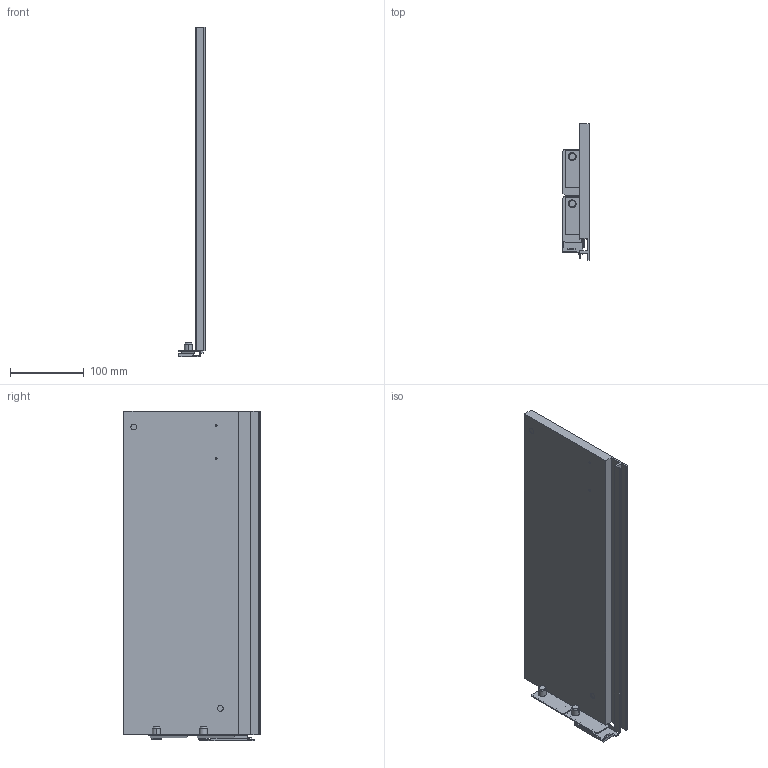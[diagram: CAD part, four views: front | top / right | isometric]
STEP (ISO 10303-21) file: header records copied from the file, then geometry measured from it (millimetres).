
FILE_DESCRIPTION (( 'STEP AP214' ), '1' );
FILE_NAME ('Vionaro_Alu-Zarge_H185_NL450_RE.STEP', '2014-08-20T14:23:01', ( '' ), ( '' ), 'SwSTEP 2.0', 'SolidWorks 2013', '' );
FILE_SCHEMA (( 'AUTOMOTIVE_DESIGN' ));
Length unit declared in the file: millimetre
Products named in the file (1): Vionaro_Alu-Zarge_H185_NL450_RE
Bounding box: 35.6 x 185 x 447.9 mm (x, y, z)
Volume: 955177.1 mm3; surface area: 206869.4 mm2
Topology: 1 solids, 1 shells, 136 faces, 356 edges, 233 vertices
Faces by surface type: plane 96, cylinder 32, cone 8
Entity records: 4187 total; most frequent: CARTESIAN_POINT 732, ORIENTED_EDGE 712, DIRECTION 701, EDGE_CURVE 356, LINE 281, VECTOR 281, VERTEX_POINT 233, AXIS2_PLACEMENT_3D 210
